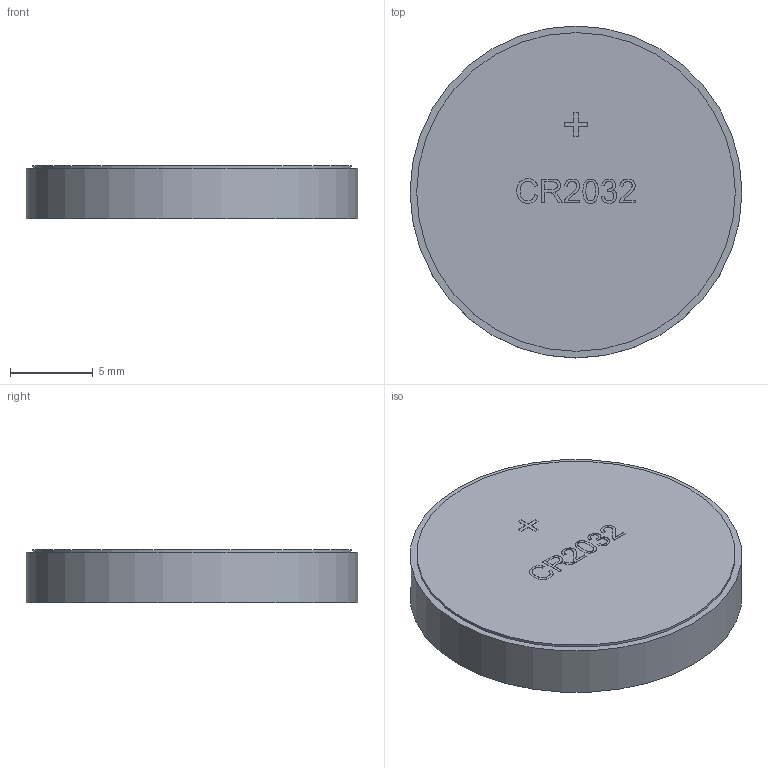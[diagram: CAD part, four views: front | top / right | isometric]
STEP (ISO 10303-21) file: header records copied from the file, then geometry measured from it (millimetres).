
FILE_DESCRIPTION(('Open CASCADE Model'),'2;1');
FILE_NAME('Open CASCADE Shape Model','2026-10-09T18:49:16',('Author'),( 'Open CASCADE'),'Open CASCADE STEP processor 7.9','Open CASCADE 7.9' ,'Unknown');
FILE_SCHEMA(('AUTOMOTIVE_DESIGN { 1 0 10303 214 1 1 1 1 }'));
Length unit declared in the file: millimetre
Products named in the file (5): CR2032_Cell; case; positivecap; mark_2; mark_3
Assembly tree (4 placements, depth 2):
  CR2032_Cell
    case
    positivecap
    mark_2
    mark_3
Bounding box: 20 x 20 x 3.21 mm (x, y, z)
Volume: 1001.6 mm3; surface area: 1416.8 mm2
Topology: 9 solids, 9 shells, 175 faces, 471 edges, 314 vertices
Faces by surface type: extrusion 119, plane 54, cylinder 2
Full cylindrical faces by diameter (mm): 19.2 x1, 20 x1
Entity records: 11873 total; most frequent: CARTESIAN_POINT 3097, DIRECTION 1182, VECTOR 1048, ORIENTED_EDGE 942, PCURVE 942, DEFINITIONAL_REPRESENTATION 942, LINE 929, B_SPLINE_CURVE_WITH_KNOTS 595
